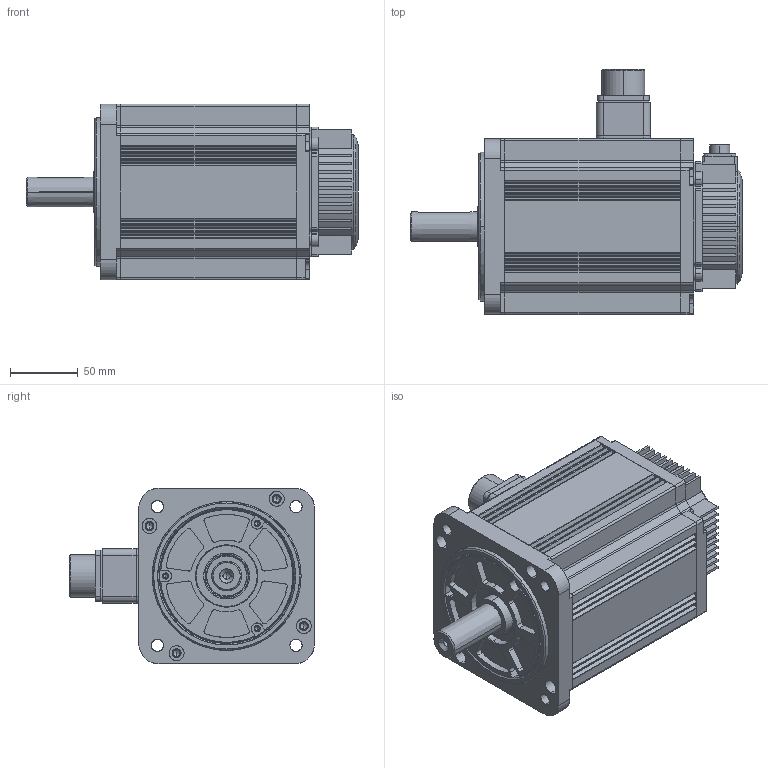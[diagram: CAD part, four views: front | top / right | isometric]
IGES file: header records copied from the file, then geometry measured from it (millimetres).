
Start section: SolidWorks IGES file using analytic representation for surfaces
Global section: file name: Z:\Products\Servo\Servo Motor\EMG-10-B24-IGS\UMM-0010EAB-B2_UMM-0010CAB-B2 CAD Files\UMM-0010EAB-B2_UMM-0010CAB-B2.IGS; native system: SolidWorks 2017; preprocessor: SolidWorks 2017; author: laorb; date: 190418.072753; units: millimetre
Bounding box: 245.5 x 181.3 x 130 mm (x, y, z)
Surface area: 372810.2 mm2 (no closed solid volume)
Topology: 0 solids, 0 shells, 1446 faces, 22651 edges, 22537 vertices
Faces by surface type: revolution 766, bspline 680
